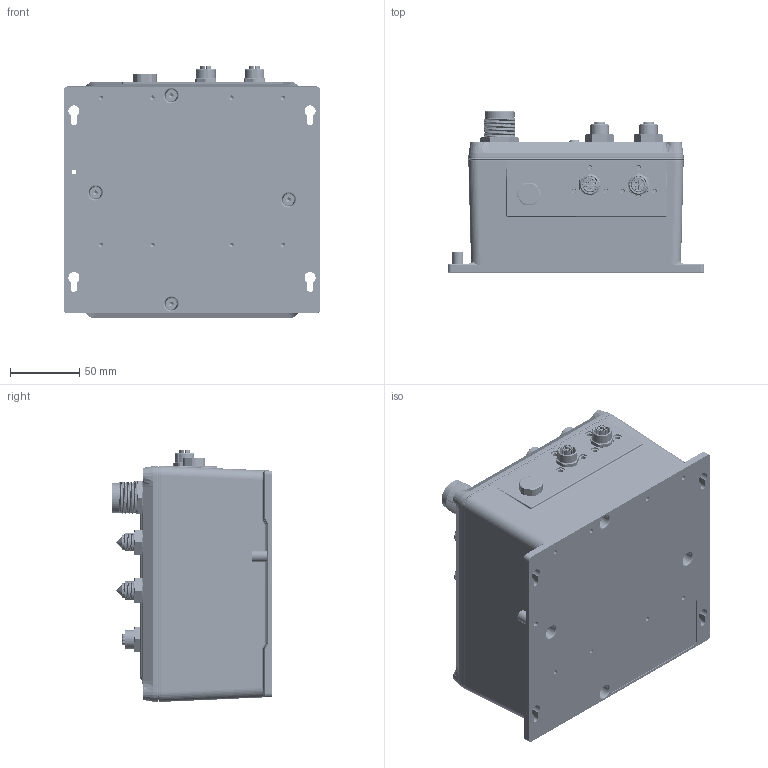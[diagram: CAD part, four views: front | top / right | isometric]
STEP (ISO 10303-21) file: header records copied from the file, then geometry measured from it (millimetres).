
FILE_DESCRIPTION((''),'2;1');
FILE_NAME('3D_TN-5510A-8POE-2GTX','2014-09-23T',('Vincent_Huang'),(''),'PRO/ENGINEER BY PARAMETRIC TECHNOLOGY CORPORATION, 2004320','PRO/ENGINEER BY PARAMETRIC TECHNOLOGY CORPORATION, 2004320','');
FILE_SCHEMA(('CONFIG_CONTROL_DESIGN'));
Products named in the file (1): 3D_TN-5510A-8POE-2GTX
Bounding box: 185 x 115.8 x 181.3 mm (x, y, z)
Surface area: 506073 mm2 (no closed solid volume)
Topology: 0 solids, 171 shells, 13503 faces, 36057 edges, 23135 vertices
Faces by surface type: plane 7712, cylinder 3141, cone 995, bspline 790, torus 639, sphere 224, extrusion 2
Entity records: 482652 total; most frequent: CARTESIAN_POINT 151366, ORIENTED_EDGE 71240, DIRECTION 64597, EDGE_CURVE 35744, VERTEX_POINT 23133, VECTOR 22823, LINE 22821, AXIS2_PLACEMENT_3D 20887
